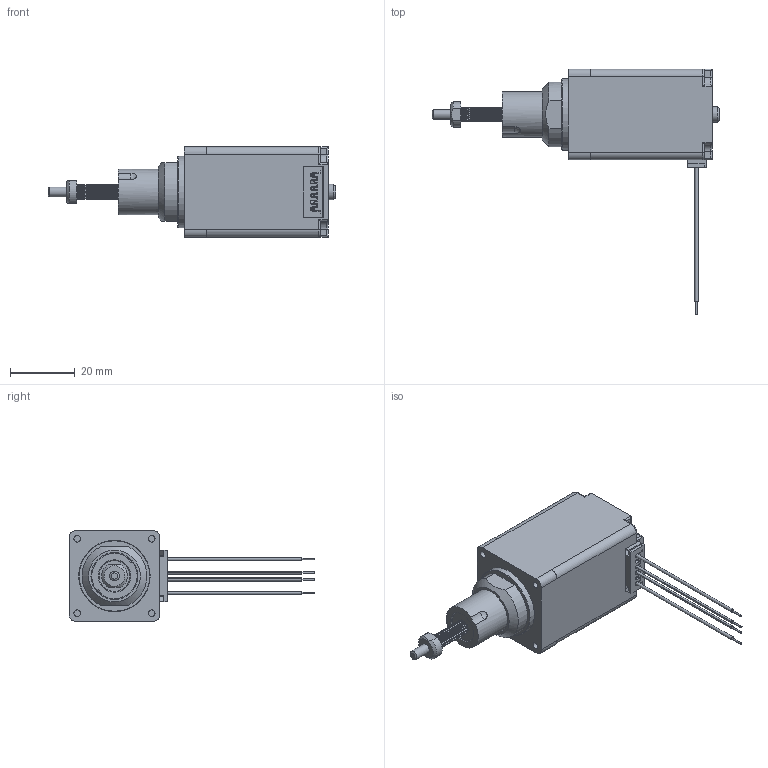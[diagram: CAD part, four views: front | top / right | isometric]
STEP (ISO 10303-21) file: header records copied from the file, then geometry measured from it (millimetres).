
FILE_DESCRIPTION( ('This file contains a STEP AP42 implementation' ,'as created by ZW3D STEP Interface translator.' ,'') ,'2;1' );
FILE_NAME( '28CC4X-XX-XXX-302.stp' ,'251231.152028', (''), ('ZWCAD Software Co.'), 'Version 1.0', 'ZW3D to STEP translator', '' );
FILE_SCHEMA(('AUTOMOTIVE_DESIGN { 1 0 10303 214 1 1 1 1 }'));
Length unit declared in the file: millimetre
Products named in the file (1): 0
Bounding box: 88.9 x 75.9 x 28 mm (x, y, z)
Volume: 18126.3 mm3; surface area: 18171.2 mm2
Topology: 5 solids, 5 shells, 788 faces, 2248 edges, 1431 vertices
Faces by surface type: plane 444, cylinder 292, sphere 18, bspline 13, torus 12, cone 9
Full cylindrical faces by diameter (mm): 0.5 x8, 1 x2, 1.4 x8, 2 x2, 2.05 x4, 2.8 x4, 2.9 x2, 3 x7, 3.94 x1, 4.76 x1, 5.3 x1, 8.5 x1, 9.53 x2, 10.5 x1, 12.8 x1, 14 x4, 14.5 x1, 16.9 x2, 22 x1
Entity records: 26895 total; most frequent: CARTESIAN_POINT 4972, ORIENTED_EDGE 4494, DIRECTION 4464, EDGE_CURVE 2247, AXIS2_PLACEMENT_3D 1520, VERTEX_POINT 1431, VECTOR 1424, LINE 1424
